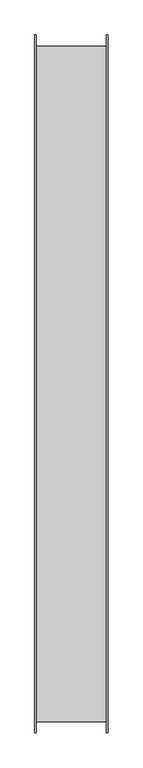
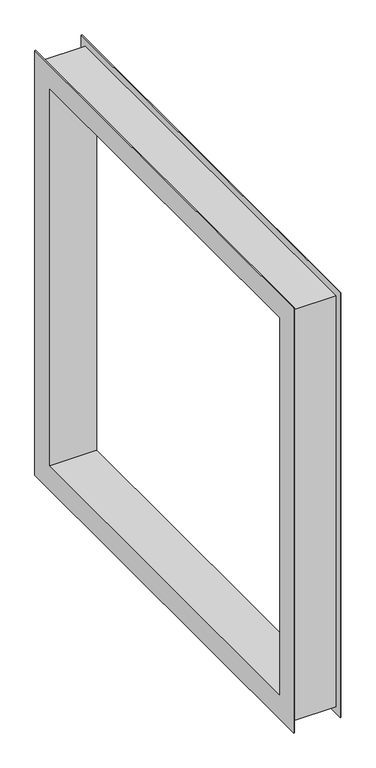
"""IFC4 building model written with IfcOpenShell, lengths in millimetres: damper geometry, MERCOR - Połączenie elastyczne do obudowy skrzynkowej : Połączenie elastyczne do układu mcr EXi-F 100-1S."""

from ifc_helpers import new_model, si_unit, origin, place, context, project, spatial, faceted_brep, source, transform, mapped, element, save


def damper_6485f1b6(model_context):
    return source(origin(), model_context, "Body", "Brep", [
        faceted_brep([(65.0, -620.0, 620.0), (65.0, -620.0, -620.0), (65.0, 620.0, -620.0), (65.0, 620.0, 620.0), (65.0, 550.0, -550.0), (65.0, -550.0, -550.0), (65.0, -550.0, 550.0), (65.0, 550.0, 550.0), (-65.0, -620.0, -620.0), (-65.0, -620.0, 620.0), (-65.0, 620.0, 620.0), (-65.0, 620.0, -620.0), (-65.0, -550.0, -550.0), (-65.0, 550.0, -550.0), (-65.0, 550.0, 550.0), (-65.0, -550.0, 550.0), (63.0, -600.0, 600.0), (63.0, 600.0, 600.0), (-63.0, 600.0, 600.0), (-63.0, -600.0, 600.0), (63.0, -600.0, -600.0), (-63.0, -600.0, -600.0), (63.0, 600.0, -600.0), (-63.0, 600.0, -600.0), (63.0, -620.0, 620.0), (63.0, 620.0, 620.0), (63.0, 620.0, -620.0), (63.0, -620.0, -620.0), (-63.0, -620.0, -620.0), (-63.0, 620.0, -620.0), (-63.0, 620.0, 620.0), (-63.0, -620.0, 620.0)], [[[0, 1, 2, 3], [4, 5, 6, 7]], [[8, 9, 10, 11], [12, 13, 14, 15]], [[16, 17, 18, 19]], [[20, 16, 19, 21]], [[22, 20, 21, 23]], [[17, 22, 23, 18]], [[24, 25, 26, 27], [17, 16, 20, 22]], [[1, 0, 24, 27]], [[2, 1, 27, 26]], [[3, 2, 26, 25]], [[0, 3, 25, 24]], [[28, 29, 30, 31], [19, 18, 23, 21]], [[29, 28, 8, 11]], [[30, 29, 11, 10]], [[31, 30, 10, 9]], [[28, 31, 9, 8]], [[4, 13, 12, 5]], [[13, 4, 7, 14]], [[14, 7, 6, 15]], [[5, 12, 15, 6]]]),
    ])


if __name__ == "__main__":
    model = new_model("IFC4")
    model_context = context("Model", 3, world=origin())
    ifc_project = project(units=[si_unit("LENGTHUNIT", "METRE", prefix="MILLI")], contexts=[model_context])
    site = spatial("IfcSite", under=ifc_project)
    building = spatial("IfcBuilding", under=site)
    placement = place(None, origin())
    damper_shape = damper_6485f1b6(model_context)
    element("IfcDamper", 1, ObjectType="MERCOR - Połączenie elastyczne do obudowy skrzynkowej : Połączenie elastyczne do układu mcr EXi-F 100-1S", at=placement, inside=building, context=model_context, shape_type="MappedRepresentation", body=[
        mapped(damper_shape, transform((0.0, 0.0, 0.0), x_axis=(1.0, 0.0, 0.0), y_axis=(0.0, 1.0, 0.0), z_axis=(0.0, 0.0, 1.0))),
    ])
    save(model, "model.ifc")
